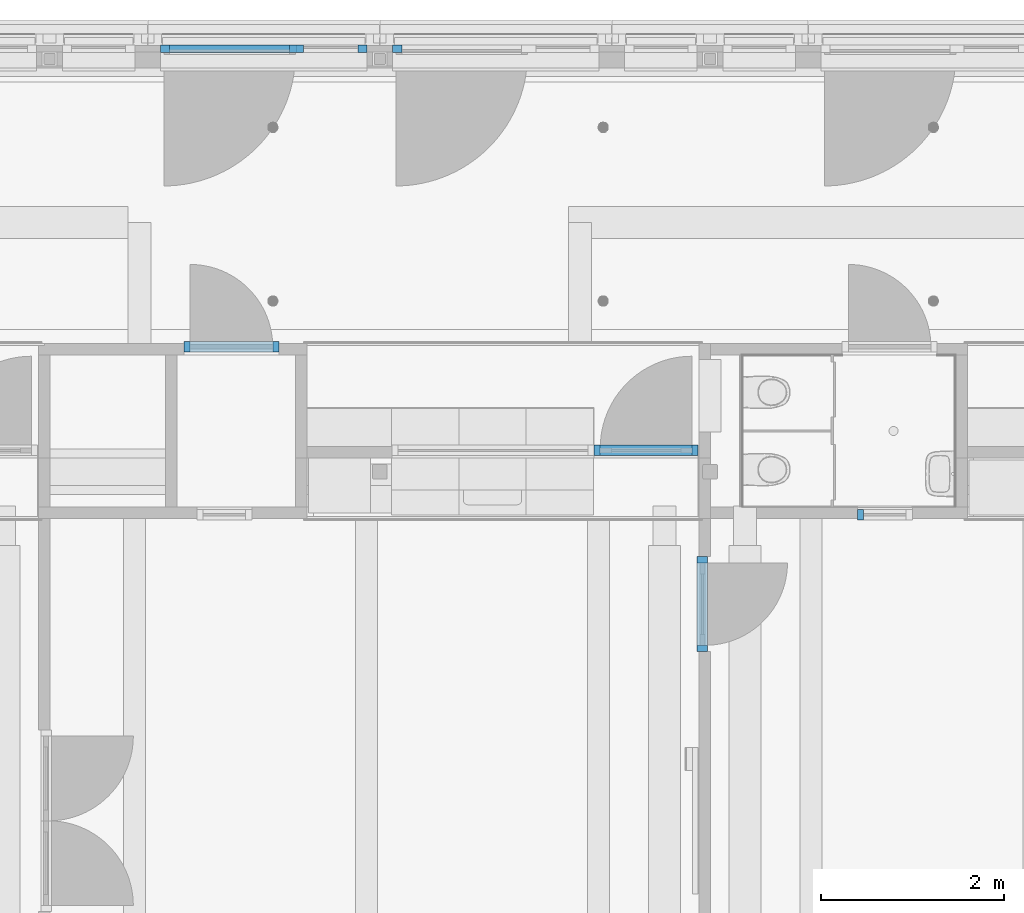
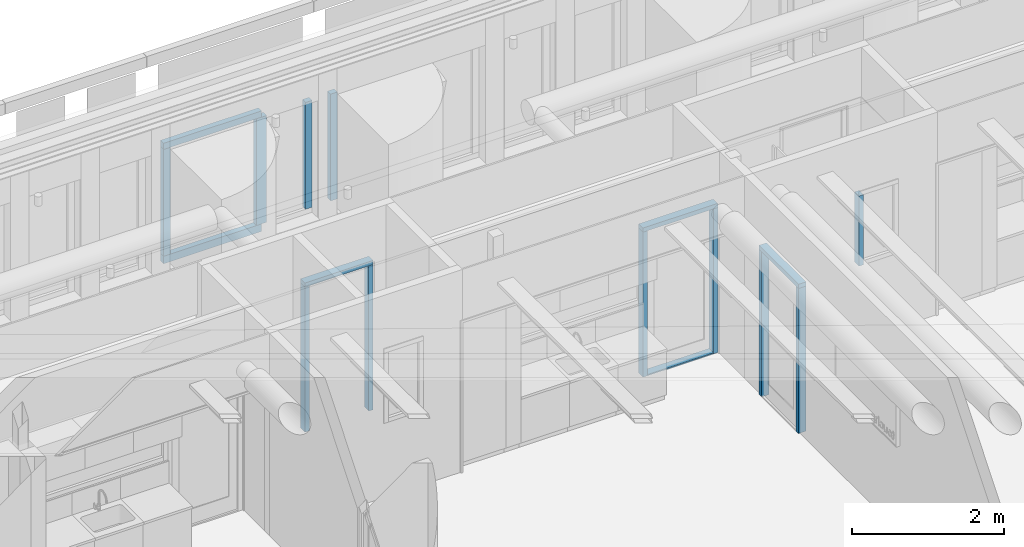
# One storey, part 18 of 128: 17 members, 6 elements without a shape of their own.
"""IFC2X3 building model written with IfcOpenShell, lengths in millimetres."""

import ifcopenshell
import ifcopenshell.guid

model = None  # the IFC model being written
_history = None  # IfcOwnerHistory: only IFC2X3 demands one
_inside = {}  # id of a spatial element -> (the spatial element, [elements in it])
_under = {}  # id of a project, library or spatial element -> (it, [spatial elements below it])
_declared = {}  # id of a project -> (the project, [libraries it declares])
_typed = {}  # id of a type object -> (the type object, [elements of that type])
_made_of = {}  # id of a material, layer set ... -> (it, [elements and type objects made of it])


def new_model(schema):
    """Start an empty IFC model of exactly this schema.

    Asked for "IFC4X3", IfcOpenShell would pick the latest addendum, in which some entities
    have other attributes; the version numbers below select the first issue.
    IFC2X3 requires an IfcOwnerHistory on every rooted entity: one is made here for all.
    """
    global model, _history
    if schema == "IFC4X3":
        model = ifcopenshell.file(schema_version=(4, 3, 0, 0))
    else:
        model = ifcopenshell.file(schema=schema)
    _inside.clear()
    _under.clear()
    _declared.clear()
    _typed.clear()
    _made_of.clear()
    _history = None
    if model.schema == "IFC2X3":
        org = make("IfcOrganization", Name="unknown")
        user = make(
            "IfcPersonAndOrganization",
            ThePerson=make("IfcPerson", FamilyName="unknown"),
            TheOrganization=org,
        )
        app = make(
            "IfcApplication",
            ApplicationDeveloper=org,
            Version="unknown",
            ApplicationFullName="unknown",
            ApplicationIdentifier="unknown",
        )
        _history = make(
            "IfcOwnerHistory",
            OwningUser=user,
            OwningApplication=app,
            ChangeAction="ADDED",
            CreationDate=0,
        )
    return model


def make(cls, **values):
    """One entity of the class cls with the attributes given. An attribute that is None is left unset."""
    return model.create_entity(
        cls, **{name: value for name, value in values.items() if value is not None}
    )


def entity(cls, *values):
    """Any entity or typed value of the class cls, its attributes in the order of the schema. None: left unset."""
    e = model.create_entity(cls)
    for i, value in enumerate(values):
        if value is not None:
            e[i] = value
    return e


def rooted(cls, **values):
    """An entity with a GlobalId (a new one), such as an element, a storey or a relation."""
    return make(cls, GlobalId=ifcopenshell.guid.new(), OwnerHistory=_history, **values)


def si_unit(unit_type, name, prefix=None):
    """IfcSIUnit, for example si_unit("LENGTHUNIT", "METRE", prefix="MILLI")."""
    return make("IfcSIUnit", UnitType=unit_type, Prefix=prefix, Name=name)


def converted_unit(unit_type, name, factor, base, dimensions=None, offset=None):
    """IfcConversionBasedUnit, such as the inch: factor (a typed value) times the base unit."""
    return make(
        "IfcConversionBasedUnit"
        if offset is None
        else "IfcConversionBasedUnitWithOffset",
        ConversionOffset=offset,
        Dimensions=None
        if dimensions is None
        else entity("IfcDimensionalExponents", *dimensions),
        UnitType=unit_type,
        Name=name,
        ConversionFactor=make(
            "IfcMeasureWithUnit", ValueComponent=factor, UnitComponent=base
        ),
    )


def derived_unit(unit_type, elements):
    """IfcDerivedUnit: a product of units, each with its exponent."""
    return make(
        "IfcDerivedUnit",
        Elements=[
            make("IfcDerivedUnitElement", Unit=unit, Exponent=power)
            for unit, power in elements
        ],
        UnitType=unit_type,
    )


def assignment(units):
    """IfcUnitAssignment: the units of a project."""
    return None if units is None else make("IfcUnitAssignment", Units=units)


def point(xyz):
    """IfcCartesianPoint."""
    return None if xyz is None else make("IfcCartesianPoint", Coordinates=xyz)


def direction(xyz):
    """IfcDirection."""
    return None if xyz is None else make("IfcDirection", DirectionRatios=xyz)


def frame(location, z_axis=None, x_axis=None):
    """IfcAxis2Placement3D, a coordinate frame: its origin and axes. An axis left out is left unset."""
    return make(
        "IfcAxis2Placement3D",
        Location=point(location),
        Axis=direction(z_axis),
        RefDirection=direction(x_axis),
    )


def frame_2d(location, x_axis=None):
    """IfcAxis2Placement2D, a coordinate frame in the plane: its origin and x axis."""
    return make(
        "IfcAxis2Placement2D", Location=point(location), RefDirection=direction(x_axis)
    )


def origin():
    """The frame at (0, 0, 0) with its axes left unset."""
    return frame((0.0, 0.0, 0.0))


def origin_2d_with_axis():
    """The frame at (0, 0) in the plane with the x axis (1, 0) written out."""
    return frame_2d((0.0, 0.0), x_axis=(1.0, 0.0))


def place(relative_to, where):
    """IfcLocalPlacement: puts the frame where relative to a parent placement (None: the world)."""
    return make(
        "IfcLocalPlacement", PlacementRelTo=relative_to, RelativePlacement=where
    )


def context(
    kind, dimensions, precision=None, world=None, true_north=None, identifier=None
):
    """IfcGeometricRepresentationContext, for example the 3D "Model" context."""
    return make(
        "IfcGeometricRepresentationContext",
        ContextIdentifier=identifier,
        ContextType=kind,
        CoordinateSpaceDimension=dimensions,
        Precision=precision,
        WorldCoordinateSystem=world,
        TrueNorth=true_north,
    )


def subcontext(parent, identifier, kind, view, scale=None):
    """IfcGeometricRepresentationSubContext, for example "Body" below "Model"."""
    return make(
        "IfcGeometricRepresentationSubContext",
        ContextIdentifier=identifier,
        ContextType=kind,
        ParentContext=parent,
        TargetScale=scale,
        TargetView=view,
    )


def project(units=None, contexts=None):
    """IfcProject with its units and contexts."""
    return rooted(
        "IfcProject",
        Name="project",
        RepresentationContexts=contexts,
        UnitsInContext=assignment(units),
    )


def spatial(cls, under=None, at=None, **own):
    """A site, building, storey or space (cls), placed at a placement, below another one or the project."""
    s = rooted(cls, ObjectPlacement=at, **own)
    if under is not None:
        _under.setdefault(under.id(), (under, []))[1].append(s)
    return s


def profile(cls, at=None, kind="AREA", **sizes):
    """A parametric profile (cls). Its sizes go by their IFC names, for example OverallWidth=200.0."""
    return make(cls, ProfileType=kind, Position=at, **sizes)


def rectangle(**sizes):
    """IfcRectangleProfileDef."""
    return profile("IfcRectangleProfileDef", **sizes)


def extrude(swept, where, along, depth):
    """IfcExtrudedAreaSolid: the profile swept, set in the frame where, extruded along a direction by depth."""
    return make(
        "IfcExtrudedAreaSolid",
        SweptArea=swept,
        Position=where,
        ExtrudedDirection=direction(along),
        Depth=depth,
    )


def shape(context_of_items, identifier, shape_type, items):
    """IfcShapeRepresentation: the items that make up one representation, for example the "Body"."""
    return make(
        "IfcShapeRepresentation",
        ContextOfItems=context_of_items,
        RepresentationIdentifier=identifier,
        RepresentationType=shape_type,
        Items=items,
    )


def source(mapping_origin, context_of_items, identifier, shape_type, items):
    """IfcRepresentationMap: a shape defined once, which mapped items show again and again."""
    return make(
        "IfcRepresentationMap",
        MappingOrigin=mapping_origin,
        MappedRepresentation=shape(context_of_items, identifier, shape_type, items),
    )


def transform(
    local_origin,
    x_axis=None,
    y_axis=None,
    z_axis=None,
    scale=None,
    scale2=None,
    scale3=None,
    uniform=True,
):
    """IfcCartesianTransformationOperator3D, or its non-uniform kind. x_axis, y_axis, z_axis: its Axis1, 2, 3."""
    if uniform:
        return make(
            "IfcCartesianTransformationOperator3D",
            Axis1=direction(x_axis),
            Axis2=direction(y_axis),
            LocalOrigin=point(local_origin),
            Scale=scale,
            Axis3=direction(z_axis),
        )
    return make(
        "IfcCartesianTransformationOperator3DnonUniform",
        Axis1=direction(x_axis),
        Axis2=direction(y_axis),
        LocalOrigin=point(local_origin),
        Scale=scale,
        Axis3=direction(z_axis),
        Scale2=scale2,
        Scale3=scale3,
    )


def mapped(mapping_source, mapping_target):
    """IfcMappedItem: shows the shape of a source again, moved by a transform."""
    return make(
        "IfcMappedItem", MappingSource=mapping_source, MappingTarget=mapping_target
    )


def material(Name=None, Category=None):
    """IfcMaterial."""
    return make("IfcMaterial", Name=Name, Category=Category)


def made_of(thing, what):
    """Note that an element or type object is made of a material, layer set ...; save() writes the relation."""
    if what is not None:
        _made_of.setdefault(what.id(), (what, []))[1].append(thing)
    return thing


def type_object(cls, material=None, **own):
    """A type object (cls), such as IfcWallType, which elements share."""
    return made_of(rooted(cls, **own), material)


def type_shapes(of_type, sources):
    """Give a type object the sources (RepresentationMaps) that its elements show as mapped items."""
    of_type.RepresentationMaps = sources


def element(
    cls,
    number,
    at=None,
    inside=None,
    cuts=None,
    type_object=None,
    material=None,
    context=None,
    identifier="Body",
    shape_type=None,
    held_by="IfcProductDefinitionShape",
    body=None,
    shapes=None,
    **own,
):
    """One element of the class cls, such as IfcWall. Its Tag is "e" and its number.

    at: its placement. inside: the storey or other place that contains it. cuts: it is an
    opening in that element (IfcRelVoidsElement). A single representation is given by context,
    identifier, shape_type and body (its items); several are given by shapes. held_by: the class
    of the entity that holds the representations. save() writes the other relations.
    """
    e = rooted(cls, Tag="e%d" % number, ObjectPlacement=at, **own)
    if body is not None:
        shapes = [shape(context, identifier, shape_type, body)]
    if shapes is not None:
        e.Representation = make(held_by, Representations=shapes)
    if inside is not None:
        _inside.setdefault(inside.id(), (inside, []))[1].append(e)
    if cuts is not None:
        rooted(
            "IfcRelVoidsElement", RelatingBuildingElement=cuts, RelatedOpeningElement=e
        )
    if type_object is not None:
        _typed.setdefault(type_object.id(), (type_object, []))[1].append(e)
    return made_of(e, material)


def aggregate(whole, parts):
    """IfcRelAggregates: a whole, such as a stair, and the parts it consists of."""
    return rooted("IfcRelAggregates", RelatingObject=whole, RelatedObjects=parts)


def save(model, path):
    """Write the relations noted so far, then the file.

    IfcRelAggregates (storeys below a building ...), IfcRelContainedInSpatialStructure (elements
    in a storey), IfcRelDefinesByType, IfcRelAssociatesMaterial and IfcRelDeclares: one each for
    every whole, place, type object, material and project.
    """
    for whole, parts in _under.values():
        aggregate(whole, parts)
    for where, things in _inside.values():
        rooted(
            "IfcRelContainedInSpatialStructure",
            RelatedElements=things,
            RelatingStructure=where,
        )
    for kind, things in _typed.values():
        rooted("IfcRelDefinesByType", RelatedObjects=things, RelatingType=kind)
    for what, things in _made_of.values():
        rooted("IfcRelAssociatesMaterial", RelatedObjects=things, RelatingMaterial=what)
    for by, libraries in _declared.values():
        rooted("IfcRelDeclares", RelatingContext=by, RelatedDefinitions=libraries)
    model.write(path)


model = new_model("IFC2X3")

# Units and contexts
model_context = context("Model", 3, precision=0.01, world=origin(), true_north=direction((6.123031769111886e-17, 1.0)))
body_context = subcontext(model_context, "Body", "Model", "MODEL_VIEW")
ifc_project = project(units=[si_unit("LENGTHUNIT", "METRE", prefix="MILLI"), si_unit("AREAUNIT", "SQUARE_METRE"), si_unit("VOLUMEUNIT", "CUBIC_METRE"), converted_unit("PLANEANGLEUNIT", "DEGREE", entity("IfcRatioMeasure", 0.017453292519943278), si_unit("PLANEANGLEUNIT", "RADIAN"), dimensions=[0, 0, 0, 0, 0, 0, 0]), si_unit("MASSUNIT", "GRAM", prefix="KILO"), derived_unit("MASSDENSITYUNIT", [(si_unit("MASSUNIT", "GRAM", prefix="KILO"), 1), (si_unit("LENGTHUNIT", "METRE"), -3)]), derived_unit("IONCONCENTRATIONUNIT", [(si_unit("MASSUNIT", "GRAM", prefix="KILO"), 1), (si_unit("LENGTHUNIT", "METRE"), -3)]), derived_unit("MOMENTOFINERTIAUNIT", [(si_unit("LENGTHUNIT", "METRE"), 4)]), si_unit("TIMEUNIT", "SECOND"), si_unit("FREQUENCYUNIT", "HERTZ"), si_unit("THERMODYNAMICTEMPERATUREUNIT", "DEGREE_CELSIUS"), derived_unit("THERMALTRANSMITTANCEUNIT", [(si_unit("MASSUNIT", "GRAM", prefix="KILO"), 1), (si_unit("THERMODYNAMICTEMPERATUREUNIT", "KELVIN"), -1), (si_unit("TIMEUNIT", "SECOND"), -3)]), derived_unit("THERMALCONDUCTANCEUNIT", [(si_unit("MASSUNIT", "GRAM", prefix="KILO"), 1), (si_unit("THERMODYNAMICTEMPERATUREUNIT", "KELVIN"), -1), (si_unit("TIMEUNIT", "SECOND"), -3), (si_unit("LENGTHUNIT", "METRE"), 1)]), derived_unit("VOLUMETRICFLOWRATEUNIT", [(si_unit("LENGTHUNIT", "METRE"), 3), (si_unit("TIMEUNIT", "SECOND"), -1)]), derived_unit("MASSFLOWRATEUNIT", [(si_unit("MASSUNIT", "GRAM", prefix="KILO"), 1), (si_unit("TIMEUNIT", "SECOND"), -1)]), derived_unit("ROTATIONALFREQUENCYUNIT", [(si_unit("TIMEUNIT", "SECOND"), -1)]), si_unit("ELECTRICCURRENTUNIT", "AMPERE"), si_unit("ELECTRICVOLTAGEUNIT", "VOLT"), si_unit("POWERUNIT", "WATT"), si_unit("FORCEUNIT", "NEWTON", prefix="KILO"), si_unit("ILLUMINANCEUNIT", "LUX"), si_unit("LUMINOUSFLUXUNIT", "LUMEN"), si_unit("LUMINOUSINTENSITYUNIT", "CANDELA"), derived_unit("USERDEFINED", [(si_unit("MASSUNIT", "GRAM", prefix="KILO"), -1), (si_unit("LENGTHUNIT", "METRE"), -2), (si_unit("TIMEUNIT", "SECOND"), 3), (si_unit("LUMINOUSFLUXUNIT", "LUMEN"), 1)]), derived_unit("USERDEFINED", [(si_unit("MASSUNIT", "GRAM", prefix="KILO"), 1), (si_unit("TIMEUNIT", "SECOND"), -3), (si_unit("LENGTHUNIT", "METRE"), 3), (si_unit("ELECTRICCURRENTUNIT", "AMPERE"), -2)]), derived_unit("SOUNDPOWERUNIT", [(si_unit("MASSUNIT", "GRAM", prefix="KILO"), 1), (si_unit("TIMEUNIT", "SECOND"), -3), (si_unit("LENGTHUNIT", "METRE"), 2)]), derived_unit("SOUNDPRESSUREUNIT", [(si_unit("MASSUNIT", "GRAM", prefix="KILO"), 1), (si_unit("LENGTHUNIT", "METRE"), -1), (si_unit("TIMEUNIT", "SECOND"), -2)]), derived_unit("LINEARVELOCITYUNIT", [(si_unit("LENGTHUNIT", "METRE"), 1), (si_unit("TIMEUNIT", "SECOND"), -1)]), si_unit("PRESSUREUNIT", "PASCAL"), derived_unit("USERDEFINED", [(si_unit("MASSUNIT", "GRAM", prefix="KILO"), 1), (si_unit("LENGTHUNIT", "METRE"), -2), (si_unit("TIMEUNIT", "SECOND"), -2)]), derived_unit("LINEARFORCEUNIT", [(si_unit("MASSUNIT", "GRAM", prefix="KILO"), 1), (si_unit("TIMEUNIT", "SECOND"), -2)]), derived_unit("PLANARFORCEUNIT", [(si_unit("MASSUNIT", "GRAM", prefix="KILO"), 1), (si_unit("LENGTHUNIT", "METRE"), -1), (si_unit("TIMEUNIT", "SECOND"), -2)]), derived_unit("SPECIFICHEATCAPACITYUNIT", [(si_unit("THERMODYNAMICTEMPERATUREUNIT", "KELVIN"), -1), (si_unit("LENGTHUNIT", "METRE"), 2), (si_unit("TIMEUNIT", "SECOND"), -2)]), derived_unit("HEATINGVALUEUNIT", [(si_unit("LENGTHUNIT", "METRE"), 2), (si_unit("TIMEUNIT", "SECOND"), -2)]), derived_unit("VAPORPERMEABILITYUNIT", [(si_unit("LENGTHUNIT", "METRE"), -1), (si_unit("TIMEUNIT", "SECOND"), 1)]), derived_unit("DYNAMICVISCOSITYUNIT", [(si_unit("MASSUNIT", "GRAM", prefix="KILO"), 1), (si_unit("TIMEUNIT", "SECOND"), -1), (si_unit("LENGTHUNIT", "METRE"), -1)]), derived_unit("THERMALEXPANSIONCOEFFICIENTUNIT", [(si_unit("THERMODYNAMICTEMPERATUREUNIT", "KELVIN"), -1)]), derived_unit("MODULUSOFELASTICITYUNIT", [(si_unit("MASSUNIT", "GRAM", prefix="KILO"), 1), (si_unit("LENGTHUNIT", "METRE"), -1), (si_unit("TIMEUNIT", "SECOND"), -2)]), derived_unit("ISOTHERMALMOISTURECAPACITYUNIT", [(si_unit("LENGTHUNIT", "METRE"), 3), (si_unit("MASSUNIT", "GRAM", prefix="KILO"), -1)]), derived_unit("MOISTUREDIFFUSIVITYUNIT", [(si_unit("TIMEUNIT", "SECOND"), -1), (si_unit("LENGTHUNIT", "METRE"), 2)])], contexts=[model_context])

# Site, building, storey
site_placement = place(None, frame((0.0, 300.0, 0.0)))
site = spatial("IfcSite", under=ifc_project, at=site_placement, Name="<Kadastrale nummers>", CompositionType="ELEMENT")
building_placement = place(site_placement, origin())
building = spatial("IfcBuilding", under=site, at=building_placement, CompositionType="ELEMENT")
storey_placement = place(building_placement, frame((0.0, 0.0, 3560.0000331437)))
storey = spatial("IfcBuildingStorey", under=building, at=storey_placement, Name="01 eerste verdieping", CompositionType="ELEMENT", Elevation=3560.0000331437)

# Curtain wall, members
curtain_wall_type_1 = type_object("IfcCurtainWallType", Name="Curtain Wall:Merk H09", PredefinedType="NOTDEFINED")
curtain_wall_1_placement = place(storey_placement, frame((0.0, 0.0, -3560.0000331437)))
curtain_wall_1 = element("IfcCurtainWall", 1, at=curtain_wall_1_placement, inside=storey, type_object=curtain_wall_type_1, Name="Curtain Wall:Merk H09", ObjectType="Curtain Wall:Merk H09")
ifc_material_1 = material(Name="ISR_HPL")
member_type_1 = type_object("IfcMemberType", Name="Rectangular Mullion:31_CWM_067x114", PredefinedType="MULLION", material=ifc_material_1)
shared_shape_1 = source(origin(), body_context, "Body", "SweptSolid", [
    extrude(rectangle(XDim=113.99999999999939, YDim=67.0, at=origin_2d_with_axis()), frame((-33.5, -57.0, -2323.0), z_axis=(0.0, 0.0, 1.0), x_axis=(0.0, -1.0, 0.0)), (0.0, 0.0, 1.0), 2323.0),
])
type_shapes(member_type_1, [shared_shape_1])
member_1_placement = place(curtain_wall_1_placement, frame((24470.0, 45476.0, 3650.0000350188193), z_axis=(0.0, 0.0, -1.0), x_axis=(1.0, 0.0, 0.0)))
member_1 = element("IfcMember", 2, at=member_1_placement, type_object=member_type_1, material=ifc_material_1, Name="Rectangular Mullion:31_CWM_067x114", ObjectType="Rectangular Mullion:31_CWM_067x114", context=body_context, shape_type="MappedRepresentation", body=[
    mapped(shared_shape_1, transform((0.0, 0.0, 0.0), scale=1.0)),
])
member_type_2 = type_object("IfcMemberType", Name="Rectangular Mullion:31_CWM_067x114", PredefinedType="MULLION", material=ifc_material_1)
shared_shape_2 = source(origin(), body_context, "Body", "SweptSolid", [
    extrude(rectangle(XDim=113.9999999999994, YDim=67.0, at=frame_2d((1.0658141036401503e-14, 0.0), x_axis=(1.0, 0.0))), frame((-33.5, -57.0, -2323.0), z_axis=(0.0, 0.0, 1.0), x_axis=(0.0, -1.0, 0.0)), (0.0, 0.0, 1.0), 2323.0),
])
type_shapes(member_type_2, [shared_shape_2])
member_2_placement = place(curtain_wall_1_placement, frame((23336.0, 45476.0, 5973.0000331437), z_axis=(0.0, 0.0, 1.0), x_axis=(-1.0, 0.0, 0.0)))
member_2 = element("IfcMember", 3, at=member_2_placement, type_object=member_type_2, material=ifc_material_1, Name="Rectangular Mullion:31_CWM_067x114", ObjectType="Rectangular Mullion:31_CWM_067x114", context=body_context, shape_type="MappedRepresentation", body=[
    mapped(shared_shape_2, transform((0.0, 0.0, 0.0), scale=1.0)),
])

# Curtain wall, member
curtain_wall_type_2 = type_object("IfcCurtainWallType", Name="Curtain Wall:Merk H01", PredefinedType="NOTDEFINED")
curtain_wall_2_placement = place(storey_placement, frame((0.0, 0.0, -3560.0000331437)))
curtain_wall_2 = element("IfcCurtainWall", 4, at=curtain_wall_2_placement, inside=storey, type_object=curtain_wall_type_2, Name="Curtain Wall:Merk H01", ObjectType="Curtain Wall:Merk H01")
member_type_3 = type_object("IfcMemberType", Name="Rectangular Mullion:31_CWM_067x114", PredefinedType="MULLION", material=ifc_material_1)
shared_shape_3 = source(origin(), body_context, "Body", "SweptSolid", [
    extrude(rectangle(XDim=113.99999999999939, YDim=67.0, at=origin_2d_with_axis()), frame((-33.5, 57.0, -2323.0), z_axis=(0.0, 0.0, 1.0), x_axis=(0.0, -1.0, 0.0)), (0.0, 0.0, 1.0), 2323.0),
])
type_shapes(member_type_3, [shared_shape_3])
member_3_placement = place(curtain_wall_2_placement, frame((18866.001376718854, 46606.0, 3650.00003501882), z_axis=(0.0, 0.0, -1.0), x_axis=(-1.0, 0.0, 0.0)))
member_3 = element("IfcMember", 5, at=member_3_placement, type_object=member_type_3, material=ifc_material_1, Name="Rectangular Mullion:31_CWM_067x114", ObjectType="Rectangular Mullion:31_CWM_067x114", context=body_context, shape_type="MappedRepresentation", body=[
    mapped(shared_shape_3, transform((0.0, 0.0, 0.0), scale=1.0)),
])

curtain_wall_type_3 = type_object("IfcCurtainWallType", Name="Curtain Wall:Merk H16", PredefinedType="NOTDEFINED")
curtain_wall_3_placement = place(storey_placement, frame((0.0, 0.0, -3560.0000331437)))
curtain_wall_3 = element("IfcCurtainWall", 6, at=curtain_wall_3_placement, inside=storey, type_object=curtain_wall_type_3, Name="Curtain Wall:Merk H16", ObjectType="Curtain Wall:Merk H16")
member_4_placement = place(curtain_wall_3_placement, frame((24460.0, 44375.0, 3650.000035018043), z_axis=(0.0, 0.0, -1.0), x_axis=(0.0, 1.0, 0.0)))
member_4 = element("IfcMember", 7, at=member_4_placement, type_object=member_type_3, material=ifc_material_1, Name="Rectangular Mullion:31_CWM_067x114", ObjectType="Rectangular Mullion:31_CWM_067x114", context=body_context, shape_type="MappedRepresentation", body=[
    mapped(shared_shape_3, transform((0.0, 0.0, 0.0), scale=1.0)),
])

# Member
member_type_4 = type_object("IfcMemberType", Name="Rectangular Mullion:31_CWM_067x114", PredefinedType="MULLION", material=ifc_material_1)
shared_shape_4 = source(origin(), body_context, "Body", "SweptSolid", [
    extrude(rectangle(XDim=113.99999999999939, YDim=67.0, at=origin_2d_with_axis()), frame((-33.5, 57.0, -2323.0), z_axis=(0.0, 0.0, 1.0), x_axis=(0.0, -1.0, 0.0)), (0.0, 0.0, 1.0), 2323.0),
])
type_shapes(member_type_4, [shared_shape_4])
member_5_placement = place(curtain_wall_2_placement, frame((19900.001376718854, 46606.0, 5973.0000331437)))
member_5 = element("IfcMember", 8, at=member_5_placement, type_object=member_type_4, material=ifc_material_1, Name="Rectangular Mullion:31_CWM_067x114", ObjectType="Rectangular Mullion:31_CWM_067x114", context=body_context, shape_type="MappedRepresentation", body=[
    mapped(shared_shape_4, transform((0.0, 0.0, 0.0), scale=1.0)),
])

member_6_placement = place(curtain_wall_3_placement, frame((24460.0, 43341.0, 5973.0000331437), z_axis=(0.0, 0.0, 1.0), x_axis=(0.0, -1.0, 0.0)))
member_6 = element("IfcMember", 9, at=member_6_placement, type_object=member_type_4, material=ifc_material_1, Name="Rectangular Mullion:31_CWM_067x114", ObjectType="Rectangular Mullion:31_CWM_067x114", context=body_context, shape_type="MappedRepresentation", body=[
    mapped(shared_shape_4, transform((0.0, 0.0, 0.0), scale=1.0)),
])

member_type_5 = type_object("IfcMemberType", Name="Rectangular Mullion:31_CWM_067x114", PredefinedType="MULLION", material=ifc_material_1)
shared_shape_5 = source(origin(), body_context, "Body", "SweptSolid", [
    extrude(rectangle(XDim=113.99999999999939, YDim=67.0, at=origin_2d_with_axis()), frame((-33.5, 57.0, -1034.0), z_axis=(0.0, 0.0, 1.0), x_axis=(0.0, -1.0, 0.0)), (0.0, 0.0, 1.0), 1033.9999999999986),
])
type_shapes(member_type_5, [shared_shape_5])
member_7_placement = place(curtain_wall_2_placement, frame((18866.001376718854, 46606.0, 6040.0000331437), z_axis=(-1.0, 0.0, 0.0), x_axis=(0.0, 0.0, 1.0)))
member_7 = element("IfcMember", 10, at=member_7_placement, type_object=member_type_5, material=ifc_material_1, Name="Rectangular Mullion:31_CWM_067x114", ObjectType="Rectangular Mullion:31_CWM_067x114", context=body_context, shape_type="MappedRepresentation", body=[
    mapped(shared_shape_5, transform((0.0, 0.0, 0.0), scale=1.0)),
])

aggregate(curtain_wall_2, [member_7, member_3, member_5])

member_8_placement = place(curtain_wall_3_placement, frame((24460.0, 44375.0, 6040.0000331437), z_axis=(0.0, 1.0, 0.0), x_axis=(0.0, 0.0, 1.0)))
member_8 = element("IfcMember", 11, at=member_8_placement, type_object=member_type_5, material=ifc_material_1, Name="Rectangular Mullion:31_CWM_067x114", ObjectType="Rectangular Mullion:31_CWM_067x114", context=body_context, shape_type="MappedRepresentation", body=[
    mapped(shared_shape_5, transform((0.0, 0.0, 0.0), scale=1.0)),
])

aggregate(curtain_wall_3, [member_8, member_4, member_6])

member_type_6 = type_object("IfcMemberType", Name="Rectangular Mullion:31_CWM_067x114", PredefinedType="MULLION", material=ifc_material_1)
shared_shape_6 = source(origin(), body_context, "Body", "SweptSolid", [
    extrude(rectangle(XDim=113.99999999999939, YDim=67.0, at=origin_2d_with_axis()), frame((-33.5, -57.0, -1134.0), z_axis=(0.0, 0.0, 1.0), x_axis=(0.0, -1.0, 0.0)), (0.0, 0.0, 1.0), 1133.9999999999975),
])
type_shapes(member_type_6, [shared_shape_6])
member_9_placement = place(curtain_wall_1_placement, frame((24470.0, 45476.0, 6040.0000331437), z_axis=(1.0, 0.0, 0.0), x_axis=(0.0, 0.0, 1.0)))
member_9 = element("IfcMember", 12, at=member_9_placement, type_object=member_type_6, material=ifc_material_1, Name="Rectangular Mullion:31_CWM_067x114", ObjectType="Rectangular Mullion:31_CWM_067x114", context=body_context, shape_type="MappedRepresentation", body=[
    mapped(shared_shape_6, transform((0.0, 0.0, 0.0), scale=1.0)),
])

ifc_material_2 = material(Name="ISR_Kunststof_grijs")
member_type_7 = type_object("IfcMemberType", Name="Rectangular Mullion:31_CWM_020x114", PredefinedType="MULLION", material=ifc_material_2)
shared_shape_7 = source(origin(), body_context, "Body", "SweptSolid", [
    extrude(rectangle(XDim=113.9999999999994, YDim=20.0, at=frame_2d((1.0658141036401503e-14, 0.0), x_axis=(1.0, 0.0))), frame((-10.0, -57.0, -1000.0), z_axis=(0.0, 0.0, 1.0), x_axis=(0.0, -1.0, 0.0)), (0.0, 0.0, 1.0), 999.999999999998),
])
type_shapes(member_type_7, [shared_shape_7])
member_10_placement = place(curtain_wall_1_placement, frame((23403.0, 45476.0, 3650.0000350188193), z_axis=(-1.0, 0.0, 0.0), x_axis=(0.0, 0.0, -1.0)))
member_10 = element("IfcMember", 13, at=member_10_placement, type_object=member_type_7, material=ifc_material_2, Name="Rectangular Mullion:31_CWM_020x114", ObjectType="Rectangular Mullion:31_CWM_020x114", context=body_context, shape_type="MappedRepresentation", body=[
    mapped(shared_shape_7, transform((0.0, 0.0, 0.0), scale=1.0)),
])

aggregate(curtain_wall_1, [member_2, member_9, member_10, member_1])

# Curtain wall, member
curtain_wall_type_4 = type_object("IfcCurtainWallType", Name="Curtain Wall:Merk H05", PredefinedType="NOTDEFINED")
curtain_wall_4_placement = place(storey_placement, frame((0.0, 0.0, -3560.0000331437)))
curtain_wall_4 = element("IfcCurtainWall", 14, at=curtain_wall_4_placement, inside=storey, type_object=curtain_wall_type_4, Name="Curtain Wall:Merk H05", ObjectType="Curtain Wall:Merk H05")
member_type_8 = type_object("IfcMemberType", Name="Rectangular Mullion:31_CWM_067x114", PredefinedType="MULLION", material=ifc_material_1)
shared_shape_8 = source(origin(), body_context, "Body", "SweptSolid", [
    extrude(rectangle(XDim=113.9999999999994, YDim=67.0, at=frame_2d((1.0658141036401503e-14, 0.0), x_axis=(1.0, 0.0))), frame((-33.5, -57.0, -1123.0), z_axis=(0.0, 0.0, 1.0), x_axis=(0.0, -1.0, 0.0)), (0.0, 0.0, 1.0), 1123.0000000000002),
])
type_shapes(member_type_8, [shared_shape_8])
member_11_placement = place(curtain_wall_4_placement, frame((26205.0, 44889.0, 4850.0000331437), z_axis=(0.0, 0.0, -1.0), x_axis=(-1.0, 0.0, 0.0)))
member_11 = element("IfcMember", 15, at=member_11_placement, type_object=member_type_8, material=ifc_material_1, Name="Rectangular Mullion:31_CWM_067x114", ObjectType="Rectangular Mullion:31_CWM_067x114", context=body_context, shape_type="MappedRepresentation", body=[
    mapped(shared_shape_8, transform((0.0, 0.0, 0.0), scale=1.0)),
])
aggregate(curtain_wall_4, [member_11])

curtain_wall_type_5 = type_object("IfcCurtainWallType", Name="Curtain Wall:K_22", PredefinedType="NOTDEFINED")
curtain_wall_5_placement = place(storey_placement, frame((0.0, 0.0, -3560.0000331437)))
curtain_wall_5 = element("IfcCurtainWall", 16, at=curtain_wall_5_placement, inside=storey, type_object=curtain_wall_type_5, Name="Curtain Wall:K_22", ObjectType="Curtain Wall:K_22")
ifc_material_3 = material(Name="ISR_Kunststof_RAL7006")
member_type_9 = type_object("IfcMemberType", Name="Rectangular Mullion:100x83 Gealan Kubus", PredefinedType="MULLION", material=ifc_material_3)
shared_shape_9 = source(origin(), body_context, "Body", "SweptSolid", [
    extrude(rectangle(XDim=83.0, YDim=100.0, at=origin_2d_with_axis()), frame((-50.0, 41.5, -1483.0), z_axis=(0.0, 0.0, 1.0), x_axis=(0.0, -1.0, 0.0)), (0.0, 0.0, 1.0), 1483.0000000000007),
])
type_shapes(member_type_9, [shared_shape_9])
member_12_placement = place(curtain_wall_5_placement, frame((18610.0, 49868.0, 6390.0), z_axis=(-1.0, 0.0, 0.0), x_axis=(0.0, 0.0, 1.0)))
member_12 = element("IfcMember", 17, at=member_12_placement, type_object=member_type_9, material=ifc_material_3, Name="Rectangular Mullion:100x83 Gealan Kubus", ObjectType="Rectangular Mullion:100x83 Gealan Kubus", context=body_context, shape_type="MappedRepresentation", body=[
    mapped(shared_shape_9, transform((0.0, 0.0, 0.0), scale=1.0)),
])

curtain_wall_6_placement = place(storey_placement, frame((0.0, 0.0, -3560.0000331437)))
curtain_wall_6 = element("IfcCurtainWall", 18, at=curtain_wall_6_placement, inside=storey, type_object=curtain_wall_type_5, Name="Curtain Wall:K_22", ObjectType="Curtain Wall:K_22")
member_type_10 = type_object("IfcMemberType", Name="Rectangular Mullion:100x83 Gealan Kubus", PredefinedType="MULLION", material=ifc_material_3)
shared_shape_10 = source(origin(), body_context, "Body", "SweptSolid", [
    extrude(rectangle(XDim=82.99999999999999, YDim=100.0, at=origin_2d_with_axis()), frame((-50.0, 41.49999999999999, -1709.9999649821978), z_axis=(0.0, 0.0, 1.0), x_axis=(0.0, -1.0, 0.0)), (0.0, 0.0, 1.0), 1709.9999649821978),
])
type_shapes(member_type_10, [shared_shape_10])
member_13_placement = place(curtain_wall_6_placement, frame((21140.0, 49868.0, 4580.0000331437), z_axis=(0.0, 0.0, -1.0), x_axis=(-1.0, 0.0, 0.0)))
member_13 = element("IfcMember", 19, at=member_13_placement, type_object=member_type_10, material=ifc_material_3, Name="Rectangular Mullion:100x83 Gealan Kubus", ObjectType="Rectangular Mullion:100x83 Gealan Kubus", context=body_context, shape_type="MappedRepresentation", body=[
    mapped(shared_shape_10, transform((0.0, 0.0, 0.0), scale=1.0)),
])
aggregate(curtain_wall_6, [member_13])

# Member
member_14_placement = place(curtain_wall_5_placement, frame((18610.0, 49868.0, 4580.0000331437), z_axis=(0.0, 0.0, -1.0), x_axis=(-1.0, 0.0, 0.0)))
member_14 = element("IfcMember", 20, at=member_14_placement, type_object=member_type_10, material=ifc_material_3, Name="Rectangular Mullion:100x83 Gealan Kubus", ObjectType="Rectangular Mullion:100x83 Gealan Kubus", context=body_context, shape_type="MappedRepresentation", body=[
    mapped(shared_shape_10, transform((0.0, 0.0, 0.0), scale=1.0)),
])

member_type_11 = type_object("IfcMemberType", Name="Rectangular Mullion:100x83 Gealan Kubus", PredefinedType="MULLION", material=ifc_material_3)
shared_shape_11 = source(origin(), body_context, "Body", "SweptSolid", [
    extrude(rectangle(XDim=83.00000000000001, YDim=100.0, at=origin_2d_with_axis()), frame((-50.0, 41.50000000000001, -1709.9999649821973), z_axis=(0.0, 0.0, 1.0), x_axis=(0.0, -1.0, 0.0)), (0.0, 0.0, 1.0), 1709.9999649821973),
])
type_shapes(member_type_11, [shared_shape_11])
member_15_placement = place(curtain_wall_5_placement, frame((20860.0, 49868.0, 6290.0)))
member_15 = element("IfcMember", 21, at=member_15_placement, type_object=member_type_11, material=ifc_material_3, Name="Rectangular Mullion:100x83 Gealan Kubus", ObjectType="Rectangular Mullion:100x83 Gealan Kubus", context=body_context, shape_type="MappedRepresentation", body=[
    mapped(shared_shape_11, transform((0.0, 0.0, 0.0), scale=1.0)),
])

member_type_12 = type_object("IfcMemberType", Name="Rectangular Mullion:120x83 Gealan Kubus", PredefinedType="MULLION", material=ifc_material_3)
shared_shape_12 = source(origin(), body_context, "Body", "SweptSolid", [
    extrude(rectangle(XDim=83.00000000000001, YDim=120.0, at=origin_2d_with_axis()), frame((-60.0, 41.50000000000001, -1483.0), z_axis=(0.0, 0.0, 1.0), x_axis=(0.0, -1.0, 0.0)), (0.0, 0.0, 1.0), 1483.0000000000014),
])
type_shapes(member_type_12, [shared_shape_12])
member_16_placement = place(curtain_wall_5_placement, frame((20093.0, 49868.0, 4460.000035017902), z_axis=(1.0, 0.0, 0.0), x_axis=(0.0, 0.0, -1.0)))
member_16 = element("IfcMember", 22, at=member_16_placement, type_object=member_type_12, material=ifc_material_3, Name="Rectangular Mullion:120x83 Gealan Kubus", ObjectType="Rectangular Mullion:120x83 Gealan Kubus", context=body_context, shape_type="MappedRepresentation", body=[
    mapped(shared_shape_12, transform((0.0, 0.0, 0.0), scale=1.0)),
])

member_type_13 = type_object("IfcMemberType", Name="Rectangular Mullion:154x83 Gealan Kubus", PredefinedType="MULLION", material=ifc_material_3)
shared_shape_13 = source(origin(), body_context, "Body", "SweptSolid", [
    extrude(rectangle(XDim=83.00000000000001, YDim=154.0, at=origin_2d_with_axis()), frame((0.0, 41.50000000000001, -1710.0), z_axis=(0.0, 0.0, 1.0), x_axis=(0.0, -1.0, 0.0)), (0.0, 0.0, 1.0), 1710.0000000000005),
])
type_shapes(member_type_13, [shared_shape_13])
member_17_placement = place(curtain_wall_5_placement, frame((20093.0, 49868.0, 4580.0000331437), z_axis=(0.0, 0.0, -1.0), x_axis=(-1.0, 0.0, 0.0)))
member_17 = element("IfcMember", 23, at=member_17_placement, type_object=member_type_13, material=ifc_material_3, Name="Rectangular Mullion:154x83 Gealan Kubus", ObjectType="Rectangular Mullion:154x83 Gealan Kubus", context=body_context, shape_type="MappedRepresentation", body=[
    mapped(shared_shape_13, transform((0.0, 0.0, 0.0), scale=1.0)),
])

aggregate(curtain_wall_5, [member_12, member_14, member_15, member_16, member_17])

save(model, "model.ifc")
